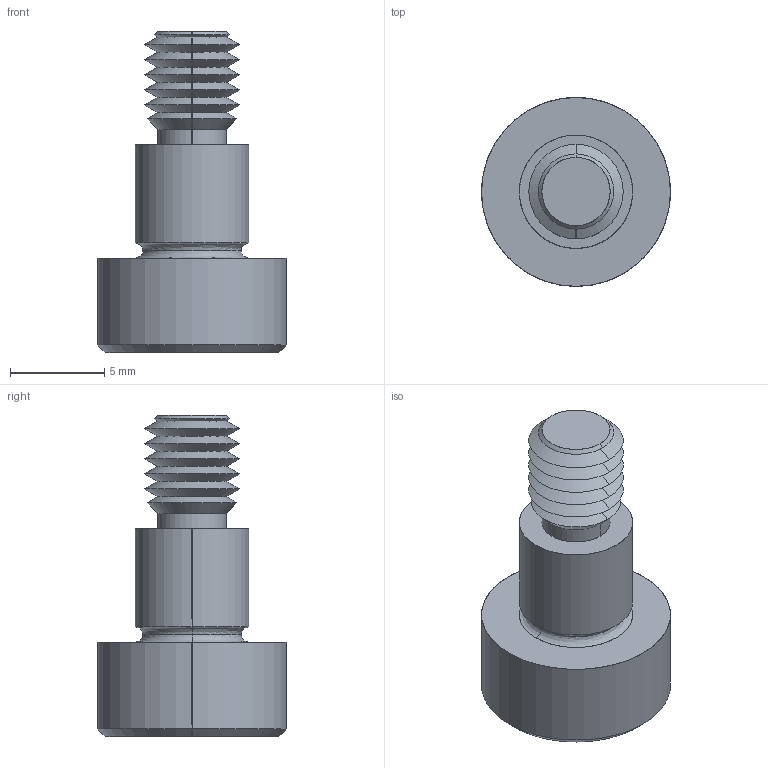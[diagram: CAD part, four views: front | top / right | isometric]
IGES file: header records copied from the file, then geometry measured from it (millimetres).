
Start section: SolidWorks IGES file using analytic representation for surfaces
Global section: file name: C:\Users\IanO\Documents\Temp Folder\GENERAL\SCREW REVISION\P0130_v2\P0130.T5_v2_20220106_IGES\P0130.060-006-T5.igs; native system: SolidWorks 2019; preprocessor: SolidWorks 2019; author: IanO; date: 220106.222118; units: millimetre
Bounding box: 10 x 10 x 17 mm (x, y, z)
Surface area: 600.7 mm2 (no closed solid volume)
Topology: 0 solids, 0 shells, 64 faces, 504 edges, 502 vertices
Faces by surface type: revolution 44, bspline 20
